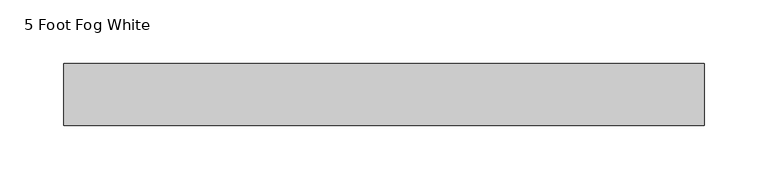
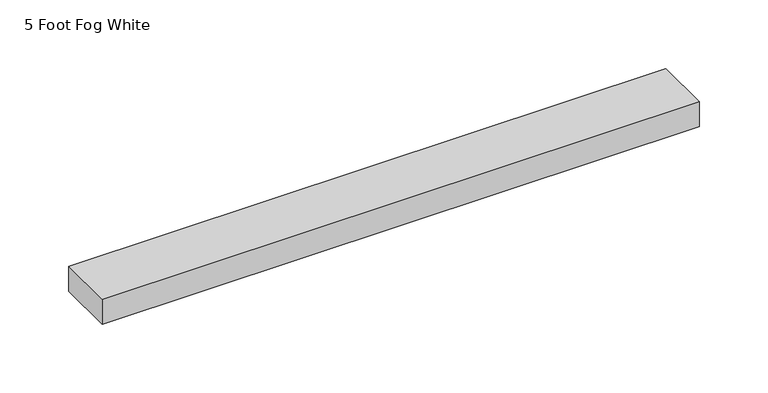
"""IFC4 building model written with IfcOpenShell, lengths in millimetres: proxy geometry, Raceway-2400_Series-Wiremold-Steel : 5 Foot Fog White."""

from ifc_helpers import new_model, si_unit, origin, origin_with_axes, place, context, project, spatial, polyline, outline, extrude, source, transform, mapped, element, save


def proxy_5_foot_fog_white_d7b9e983(model_context):
    return source(origin(), model_context, "Body", "SweptSolid", [
        extrude(outline(polyline([(501.65, 24.2062), (501.65, -24.2062), (0.0, -24.2062), (0.0, 24.2062), (501.65, 24.2062)])), origin_with_axes(), (0.0, 0.0, 1.0), 22.225),
    ])


if __name__ == "__main__":
    model = new_model("IFC4")
    model_context = context("Model", 3, world=origin())
    ifc_project = project(units=[si_unit("LENGTHUNIT", "METRE", prefix="MILLI")], contexts=[model_context])
    site = spatial("IfcSite", under=ifc_project)
    building = spatial("IfcBuilding", under=site)
    placement = place(None, origin())
    proxy_5_foot_fog_white_shape = proxy_5_foot_fog_white_d7b9e983(model_context)
    element("IfcBuildingElementProxy", 1, Name="Raceway-2400_Series-Wiremold-Steel : 5 Foot Fog White", ObjectType="Raceway-2400_Series-Wiremold-Steel : 5 Foot Fog White", at=placement, inside=building, context=model_context, shape_type="MappedRepresentation", body=[
        mapped(proxy_5_foot_fog_white_shape, transform((0.0, 0.0, 0.0), x_axis=(1.0, 0.0, 0.0), y_axis=(0.0, 1.0, 0.0), z_axis=(0.0, 0.0, 1.0))),
    ])
    save(model, "model.ifc")
